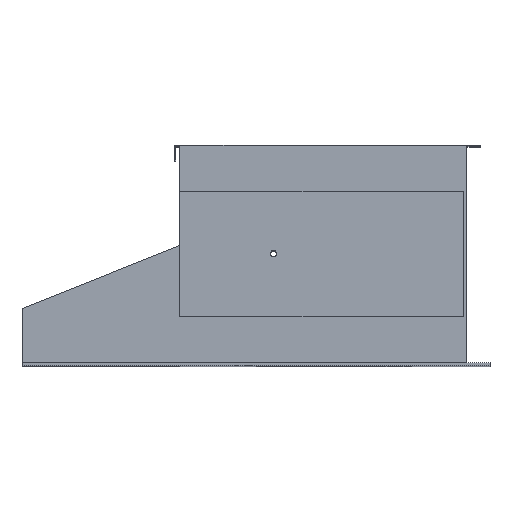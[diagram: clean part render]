
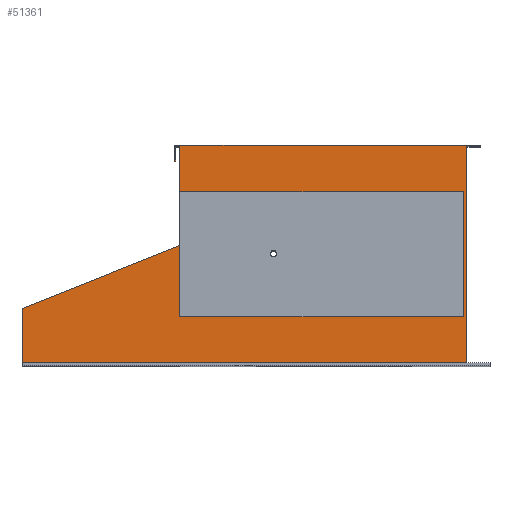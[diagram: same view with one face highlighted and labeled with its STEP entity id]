
A CAD part, top view. The second image highlights one B-rep face of the part: STEP entity #51361.
In plain terms, the highlighted planar face has unit normal (0, 0, 1).
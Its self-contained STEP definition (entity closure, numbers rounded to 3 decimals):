
#567 = CARTESIAN_POINT ( 'NONE',  ( 0., -171.895, 243. ) ) ;
#940 = VECTOR ( 'NONE', #8587, 1000. ) ;
#942 = ORIENTED_EDGE ( 'NONE', *, *, #13157, .F. ) ;
#981 = ORIENTED_EDGE ( 'NONE', *, *, #8889, .F. ) ;
#1415 = CARTESIAN_POINT ( 'NONE',  ( 0., 176.605, 243. ) ) ;
#2191 = CARTESIAN_POINT ( 'NONE',  ( 359.485, 0., 243. ) ) ;
#3103 = VERTEX_POINT ( 'NONE', #21170 ) ;
#3174 = LINE ( 'NONE', #29216, #25913 ) ;
#4328 = LINE ( 'NONE', #567, #28424 ) ;
#4624 = CARTESIAN_POINT ( 'NONE',  ( -122.515, -97.895, 243. ) ) ;
#5151 = DIRECTION ( 'NONE',  ( 1., 0., 0. ) ) ;
#5540 = EDGE_CURVE ( 'NONE', #22633, #8283, #5685, .T. ) ;
#5685 = LINE ( 'NONE', #31286, #51765 ) ;
#6313 = DIRECTION ( 'NONE',  ( 0., -1., 0. ) ) ;
#6677 = LINE ( 'NONE', #28862, #29291 ) ;
#7003 = PLANE ( 'NONE',  #51863 ) ;
#7187 = CARTESIAN_POINT ( 'NONE',  ( 331.485, -97.895, 243. ) ) ;
#7203 = CARTESIAN_POINT ( 'NONE',  ( 331.485, 102.105, 243. ) ) ;
#7735 = EDGE_CURVE ( 'NONE', #42547, #13555, #25125, .T. ) ;
#8283 = VERTEX_POINT ( 'NONE', #49837 ) ;
#8587 = DIRECTION ( 'NONE',  ( -1., 0., 0. ) ) ;
#8889 = EDGE_CURVE ( 'NONE', #20257, #32610, #18110, .T. ) ;
#9230 = VECTOR ( 'NONE', #38066, 1000. ) ;
#9780 = CARTESIAN_POINT ( 'NONE',  ( -122.515, -97.895, 243. ) ) ;
#9919 = DIRECTION ( 'NONE',  ( 0., 1., 0. ) ) ;
#10212 = ORIENTED_EDGE ( 'NONE', *, *, #5540, .T. ) ;
#10689 = LINE ( 'NONE', #1415, #33199 ) ;
#10865 = EDGE_CURVE ( 'NONE', #53900, #32892, #4328, .T. ) ;
#11275 = VECTOR ( 'NONE', #19004, 1000. ) ;
#11279 = CARTESIAN_POINT ( 'NONE',  ( -122.515, 102.105, 243. ) ) ;
#12745 = LINE ( 'NONE', #39211, #24794 ) ;
#13157 = EDGE_CURVE ( 'NONE', #32576, #37613, #23387, .T. ) ;
#13444 = VECTOR ( 'NONE', #55592, 1000. ) ;
#13555 = VERTEX_POINT ( 'NONE', #24218 ) ;
#13635 = VERTEX_POINT ( 'NONE', #11279 ) ;
#14146 = CARTESIAN_POINT ( 'NONE',  ( -129.015, 0., 243. ) ) ;
#14213 = VECTOR ( 'NONE', #16390, 1000. ) ;
#15711 = CARTESIAN_POINT ( 'NONE',  ( 0., 174.896, 243. ) ) ;
#16390 = DIRECTION ( 'NONE',  ( -1., 0., 0. ) ) ;
#17537 = EDGE_CURVE ( 'NONE', #54756, #53900, #3174, .T. ) ;
#17679 = CARTESIAN_POINT ( 'NONE',  ( -375.515, -171.895, 243. ) ) ;
#18110 = LINE ( 'NONE', #30823, #31366 ) ;
#18515 = EDGE_CURVE ( 'NONE', #40325, #13635, #6677, .T. ) ;
#18784 = CARTESIAN_POINT ( 'NONE',  ( -375.515, -84.895, 243. ) ) ;
#19004 = DIRECTION ( 'NONE',  ( 0., -1., 0. ) ) ;
#19380 = VECTOR ( 'NONE', #43061, 1000. ) ;
#20004 = LINE ( 'NONE', #2191, #31802 ) ;
#20257 = VERTEX_POINT ( 'NONE', #38547 ) ;
#20889 = EDGE_CURVE ( 'NONE', #37613, #20257, #54606, .T. ) ;
#21023 = DIRECTION ( 'NONE',  ( 1., 0., 0. ) ) ;
#21170 = CARTESIAN_POINT ( 'NONE',  ( -130.515, 176.605, 243. ) ) ;
#21324 = FACE_OUTER_BOUND ( 'NONE', #56644, .T. ) ;
#21379 = DIRECTION ( 'NONE',  ( 0., 1., 0. ) ) ;
#22633 = VERTEX_POINT ( 'NONE', #35685 ) ;
#23372 = VERTEX_POINT ( 'NONE', #29084 ) ;
#23387 = LINE ( 'NONE', #9780, #11275 ) ;
#24218 = CARTESIAN_POINT ( 'NONE',  ( -130.515, 151.605, 243. ) ) ;
#24549 = CARTESIAN_POINT ( 'NONE',  ( -122.515, 174.896, 243. ) ) ;
#24794 = VECTOR ( 'NONE', #43631, 1000. ) ;
#25125 = LINE ( 'NONE', #34604, #940 ) ;
#25913 = VECTOR ( 'NONE', #33724, 1000. ) ;
#26763 = ORIENTED_EDGE ( 'NONE', *, *, #53460, .T. ) ;
#26794 = ORIENTED_EDGE ( 'NONE', *, *, #17537, .T. ) ;
#27036 = DIRECTION ( 'NONE',  ( 1., 0., 0. ) ) ;
#27952 = DIRECTION ( 'NONE',  ( 0., -1., 0. ) ) ;
#28192 = ORIENTED_EDGE ( 'NONE', *, *, #10865, .T. ) ;
#28424 = VECTOR ( 'NONE', #5151, 1000. ) ;
#28862 = CARTESIAN_POINT ( 'NONE',  ( -122.515, 0., 243. ) ) ;
#29084 = CARTESIAN_POINT ( 'NONE',  ( 359.485, 176.605, 243. ) ) ;
#29216 = CARTESIAN_POINT ( 'NONE',  ( -375.515, 0., 243. ) ) ;
#29291 = VECTOR ( 'NONE', #6313, 1000. ) ;
#29304 = DIRECTION ( 'NONE',  ( 0., -1., 0. ) ) ;
#30679 = CARTESIAN_POINT ( 'NONE',  ( -129.015, 174.896, 243. ) ) ;
#30823 = CARTESIAN_POINT ( 'NONE',  ( 331.485, -97.895, 243. ) ) ;
#30963 = LINE ( 'NONE', #36891, #42755 ) ;
#31286 = CARTESIAN_POINT ( 'NONE',  ( 0., 174.896, 243. ) ) ;
#31366 = VECTOR ( 'NONE', #21379, 1000. ) ;
#31797 = LINE ( 'NONE', #37509, #9230 ) ;
#31802 = VECTOR ( 'NONE', #29304, 1000. ) ;
#32374 = VECTOR ( 'NONE', #9919, 1000. ) ;
#32576 = VERTEX_POINT ( 'NONE', #38653 ) ;
#32610 = VERTEX_POINT ( 'NONE', #7203 ) ;
#32705 = VERTEX_POINT ( 'NONE', #30679 ) ;
#32892 = VERTEX_POINT ( 'NONE', #45339 ) ;
#33199 = VECTOR ( 'NONE', #37486, 1000. ) ;
#33724 = DIRECTION ( 'NONE',  ( 0., -1., 0. ) ) ;
#34604 = CARTESIAN_POINT ( 'NONE',  ( 0., 151.605, 243. ) ) ;
#34820 = ORIENTED_EDGE ( 'NONE', *, *, #20889, .F. ) ;
#34851 = ORIENTED_EDGE ( 'NONE', *, *, #39313, .F. ) ;
#34884 = ORIENTED_EDGE ( 'NONE', *, *, #40829, .F. ) ;
#35520 = ORIENTED_EDGE ( 'NONE', *, *, #42343, .F. ) ;
#35685 = CARTESIAN_POINT ( 'NONE',  ( 337.485, 174.896, 243. ) ) ;
#36891 = CARTESIAN_POINT ( 'NONE',  ( 337.485, 0., 243. ) ) ;
#37486 = DIRECTION ( 'NONE',  ( 1., 0., 0. ) ) ;
#37509 = CARTESIAN_POINT ( 'NONE',  ( -22.521, 56.303, 243. ) ) ;
#37613 = VERTEX_POINT ( 'NONE', #4624 ) ;
#37985 = LINE ( 'NONE', #38622, #14213 ) ;
#38066 = DIRECTION ( 'NONE',  ( -0.928, -0.371, 0. ) ) ;
#38547 = CARTESIAN_POINT ( 'NONE',  ( 331.485, -97.895, 243. ) ) ;
#38622 = CARTESIAN_POINT ( 'NONE',  ( 331.485, 102.105, 243. ) ) ;
#38653 = CARTESIAN_POINT ( 'NONE',  ( -122.515, 16.305, 243. ) ) ;
#39211 = CARTESIAN_POINT ( 'NONE',  ( -130.515, 0., 243. ) ) ;
#39313 = EDGE_CURVE ( 'NONE', #3103, #23372, #10689, .T. ) ;
#39367 = EDGE_CURVE ( 'NONE', #23372, #8283, #20004, .T. ) ;
#40035 = LINE ( 'NONE', #15711, #13444 ) ;
#40325 = VERTEX_POINT ( 'NONE', #24549 ) ;
#40829 = EDGE_CURVE ( 'NONE', #32610, #13635, #37985, .T. ) ;
#41419 = EDGE_CURVE ( 'NONE', #32705, #40325, #40035, .T. ) ;
#42343 = EDGE_CURVE ( 'NONE', #22633, #32892, #30963, .T. ) ;
#42547 = VERTEX_POINT ( 'NONE', #56727 ) ;
#42755 = VECTOR ( 'NONE', #27952, 1000. ) ;
#43053 = ORIENTED_EDGE ( 'NONE', *, *, #18515, .T. ) ;
#43056 = CARTESIAN_POINT ( 'NONE',  ( 0., 0., 243. ) ) ;
#43061 = DIRECTION ( 'NONE',  ( 1., 0., 0. ) ) ;
#43631 = DIRECTION ( 'NONE',  ( 0., 1., 0. ) ) ;
#45131 = ORIENTED_EDGE ( 'NONE', *, *, #7735, .F. ) ;
#45339 = CARTESIAN_POINT ( 'NONE',  ( 337.485, -171.895, 243. ) ) ;
#47454 = DIRECTION ( 'NONE',  ( 0., 0., 1. ) ) ;
#47849 = ORIENTED_EDGE ( 'NONE', *, *, #39367, .F. ) ;
#48553 = ORIENTED_EDGE ( 'NONE', *, *, #49068, .T. ) ;
#49068 = EDGE_CURVE ( 'NONE', #32576, #54756, #31797, .T. ) ;
#49837 = CARTESIAN_POINT ( 'NONE',  ( 359.485, 174.896, 243. ) ) ;
#50545 = EDGE_CURVE ( 'NONE', #13555, #3103, #12745, .T. ) ;
#51361 = ADVANCED_FACE ( 'NONE', ( #21324 ), #7003, .T. ) ;
#51765 = VECTOR ( 'NONE', #27036, 1000. ) ;
#51863 = AXIS2_PLACEMENT_3D ( 'NONE', #43056, #47454, #21023 ) ;
#53299 = ORIENTED_EDGE ( 'NONE', *, *, #50545, .F. ) ;
#53460 = EDGE_CURVE ( 'NONE', #42547, #32705, #55744, .T. ) ;
#53900 = VERTEX_POINT ( 'NONE', #17679 ) ;
#54606 = LINE ( 'NONE', #7187, #19380 ) ;
#54756 = VERTEX_POINT ( 'NONE', #18784 ) ;
#55592 = DIRECTION ( 'NONE',  ( 1., 0., 0. ) ) ;
#55744 = LINE ( 'NONE', #14146, #32374 ) ;
#56644 = EDGE_LOOP ( 'NONE', ( #26794, #28192, #35520, #10212, #47849, #34851, #53299, #45131, #26763, #57475, #43053, #34884, #981, #34820, #942, #48553 ) ) ;
#56727 = CARTESIAN_POINT ( 'NONE',  ( -129.015, 151.605, 243. ) ) ;
#57475 = ORIENTED_EDGE ( 'NONE', *, *, #41419, .T. ) ;
